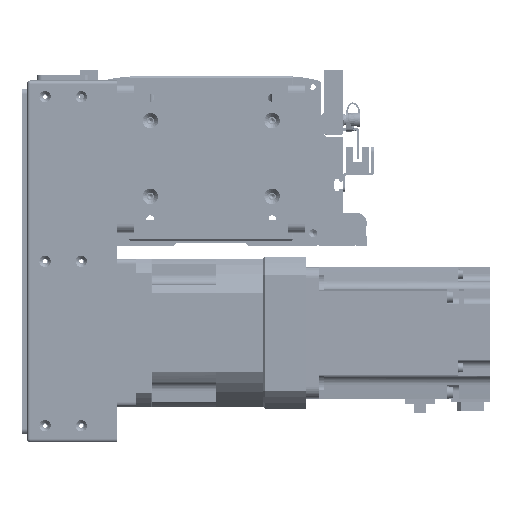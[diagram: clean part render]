
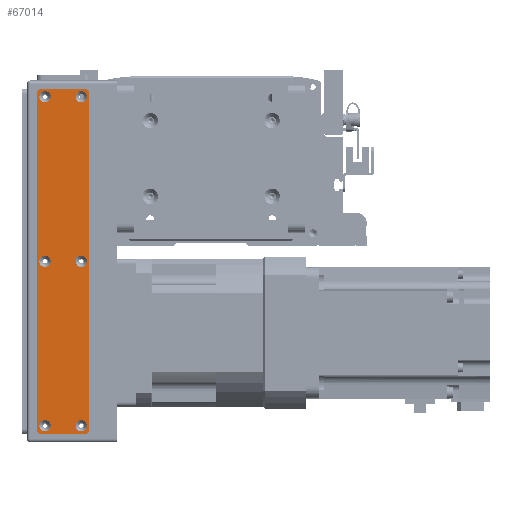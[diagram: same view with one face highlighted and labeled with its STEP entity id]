
A CAD part, front view. The second image highlights one B-rep face of the part: STEP entity #67014.
In plain terms, the highlighted planar face has unit normal (0, -1, 0).
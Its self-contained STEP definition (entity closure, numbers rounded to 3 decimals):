
#2662=FACE_BOUND('',#13954,.T.);
#2663=FACE_BOUND('',#13955,.T.);
#2664=FACE_BOUND('',#13956,.T.);
#2665=FACE_BOUND('',#13957,.T.);
#2666=FACE_BOUND('',#13958,.T.);
#2667=FACE_BOUND('',#13959,.T.);
#4748=PLANE('',#74153);
#9661=FACE_OUTER_BOUND('',#13953,.T.);
#13953=EDGE_LOOP('',(#63142,#63143,#63144,#63145,#63146,#63147,#63148,#63149));
#13954=EDGE_LOOP('',(#63150));
#13955=EDGE_LOOP('',(#63151));
#13956=EDGE_LOOP('',(#63152));
#13957=EDGE_LOOP('',(#63153));
#13958=EDGE_LOOP('',(#63154));
#13959=EDGE_LOOP('',(#63155));
#20160=LINE('',#115417,#26360);
#20161=LINE('',#115421,#26361);
#20162=LINE('',#115425,#26362);
#20163=LINE('',#115428,#26363);
#26360=VECTOR('',#93324,10.);
#26361=VECTOR('',#93327,10.);
#26362=VECTOR('',#93330,10.);
#26363=VECTOR('',#93333,10.);
#28952=CIRCLE('',#74121,3.45);
#28955=CIRCLE('',#74126,3.45);
#28958=CIRCLE('',#74131,3.45);
#28961=CIRCLE('',#74136,3.45);
#28964=CIRCLE('',#74141,3.45);
#28967=CIRCLE('',#74146,3.45);
#28970=CIRCLE('',#74151,3.);
#28972=CIRCLE('',#74154,3.);
#28973=CIRCLE('',#74155,3.);
#28974=CIRCLE('',#74156,3.);
#35123=VERTEX_POINT('',#115347);
#35126=VERTEX_POINT('',#115357);
#35129=VERTEX_POINT('',#115367);
#35132=VERTEX_POINT('',#115377);
#35135=VERTEX_POINT('',#115387);
#35138=VERTEX_POINT('',#115397);
#35141=VERTEX_POINT('',#115407);
#35142=VERTEX_POINT('',#115408);
#35145=VERTEX_POINT('',#115416);
#35146=VERTEX_POINT('',#115418);
#35147=VERTEX_POINT('',#115420);
#35148=VERTEX_POINT('',#115422);
#35149=VERTEX_POINT('',#115424);
#35150=VERTEX_POINT('',#115426);
#44450=EDGE_CURVE('',#35123,#35123,#28952,.T.);
#44455=EDGE_CURVE('',#35126,#35126,#28955,.T.);
#44460=EDGE_CURVE('',#35129,#35129,#28958,.T.);
#44465=EDGE_CURVE('',#35132,#35132,#28961,.T.);
#44470=EDGE_CURVE('',#35135,#35135,#28964,.T.);
#44475=EDGE_CURVE('',#35138,#35138,#28967,.T.);
#44480=EDGE_CURVE('',#35141,#35142,#28970,.T.);
#44484=EDGE_CURVE('',#35141,#35145,#20160,.T.);
#44485=EDGE_CURVE('',#35146,#35145,#28972,.T.);
#44486=EDGE_CURVE('',#35146,#35147,#20161,.T.);
#44487=EDGE_CURVE('',#35148,#35147,#28973,.T.);
#44488=EDGE_CURVE('',#35148,#35149,#20162,.T.);
#44489=EDGE_CURVE('',#35150,#35149,#28974,.T.);
#44490=EDGE_CURVE('',#35150,#35142,#20163,.T.);
#63142=ORIENTED_EDGE('',*,*,#44480,.F.);
#63143=ORIENTED_EDGE('',*,*,#44484,.T.);
#63144=ORIENTED_EDGE('',*,*,#44485,.F.);
#63145=ORIENTED_EDGE('',*,*,#44486,.T.);
#63146=ORIENTED_EDGE('',*,*,#44487,.F.);
#63147=ORIENTED_EDGE('',*,*,#44488,.T.);
#63148=ORIENTED_EDGE('',*,*,#44489,.F.);
#63149=ORIENTED_EDGE('',*,*,#44490,.T.);
#63150=ORIENTED_EDGE('',*,*,#44450,.T.);
#63151=ORIENTED_EDGE('',*,*,#44455,.T.);
#63152=ORIENTED_EDGE('',*,*,#44460,.T.);
#63153=ORIENTED_EDGE('',*,*,#44465,.T.);
#63154=ORIENTED_EDGE('',*,*,#44470,.T.);
#63155=ORIENTED_EDGE('',*,*,#44475,.T.);
#67014=ADVANCED_FACE('',(#9661,#2662,#2663,#2664,#2665,#2666,#2667),#4748,
 .T.);
#74121=AXIS2_PLACEMENT_3D('',#115348,#93244,#93245);
#74126=AXIS2_PLACEMENT_3D('',#115358,#93256,#93257);
#74131=AXIS2_PLACEMENT_3D('',#115368,#93268,#93269);
#74136=AXIS2_PLACEMENT_3D('',#115378,#93280,#93281);
#74141=AXIS2_PLACEMENT_3D('',#115388,#93292,#93293);
#74146=AXIS2_PLACEMENT_3D('',#115398,#93304,#93305);
#74151=AXIS2_PLACEMENT_3D('',#115409,#93316,#93317);
#74153=AXIS2_PLACEMENT_3D('',#115415,#93322,#93323);
#74154=AXIS2_PLACEMENT_3D('',#115419,#93325,#93326);
#74155=AXIS2_PLACEMENT_3D('',#115423,#93328,#93329);
#74156=AXIS2_PLACEMENT_3D('',#115427,#93331,#93332);
#93244=DIRECTION('center_axis',(0.,1.,0.));
#93245=DIRECTION('ref_axis',(1.,0.,0.));
#93256=DIRECTION('center_axis',(0.,1.,0.));
#93257=DIRECTION('ref_axis',(1.,0.,0.));
#93268=DIRECTION('center_axis',(0.,1.,0.));
#93269=DIRECTION('ref_axis',(1.,0.,0.));
#93280=DIRECTION('center_axis',(0.,1.,0.));
#93281=DIRECTION('ref_axis',(1.,0.,0.));
#93292=DIRECTION('center_axis',(0.,1.,0.));
#93293=DIRECTION('ref_axis',(1.,0.,0.));
#93304=DIRECTION('center_axis',(0.,1.,0.));
#93305=DIRECTION('ref_axis',(1.,0.,0.));
#93316=DIRECTION('center_axis',(0.,1.,0.));
#93317=DIRECTION('ref_axis',(-0.707,0.,0.707));
#93322=DIRECTION('center_axis',(0.,-1.,0.));
#93323=DIRECTION('ref_axis',(0.,0.,-1.));
#93324=DIRECTION('',(0.,0.,-1.));
#93325=DIRECTION('center_axis',(0.,1.,0.));
#93326=DIRECTION('ref_axis',(-0.707,0.,-0.707));
#93327=DIRECTION('',(1.,0.,0.));
#93328=DIRECTION('center_axis',(0.,1.,0.));
#93329=DIRECTION('ref_axis',(0.707,0.,-0.707));
#93330=DIRECTION('',(0.,0.,1.));
#93331=DIRECTION('center_axis',(0.,1.,0.));
#93332=DIRECTION('ref_axis',(0.707,0.,0.707));
#93333=DIRECTION('',(-1.,0.,0.));
#115347=CARTESIAN_POINT('',(96.55,-1.5,11.));
#115348=CARTESIAN_POINT('Origin',(100.,-1.5,11.));
#115357=CARTESIAN_POINT('',(-103.45,-1.5,-11.));
#115358=CARTESIAN_POINT('Origin',(-100.,-1.5,-11.));
#115367=CARTESIAN_POINT('',(-3.45,-1.5,11.));
#115368=CARTESIAN_POINT('Origin',(0.,-1.5,11.));
#115377=CARTESIAN_POINT('',(-3.45,-1.5,-11.));
#115378=CARTESIAN_POINT('Origin',(0.,-1.5,-11.));
#115387=CARTESIAN_POINT('',(-103.45,-1.5,11.));
#115388=CARTESIAN_POINT('Origin',(-100.,-1.5,11.));
#115397=CARTESIAN_POINT('',(96.55,-1.5,-11.));
#115398=CARTESIAN_POINT('Origin',(100.,-1.5,-11.));
#115407=CARTESIAN_POINT('',(-105.,-1.5,13.));
#115408=CARTESIAN_POINT('',(-102.,-1.5,16.));
#115409=CARTESIAN_POINT('Origin',(-102.,-1.5,13.));
#115415=CARTESIAN_POINT('Origin',(0.,-1.5,0.));
#115416=CARTESIAN_POINT('',(-105.,-1.5,-13.));
#115417=CARTESIAN_POINT('',(-105.,-1.5,16.));
#115418=CARTESIAN_POINT('',(-102.,-1.5,-16.));
#115419=CARTESIAN_POINT('Origin',(-102.,-1.5,-13.));
#115420=CARTESIAN_POINT('',(102.,-1.5,-16.));
#115421=CARTESIAN_POINT('',(-105.,-1.5,-16.));
#115422=CARTESIAN_POINT('',(105.,-1.5,-13.));
#115423=CARTESIAN_POINT('Origin',(102.,-1.5,-13.));
#115424=CARTESIAN_POINT('',(105.,-1.5,13.));
#115425=CARTESIAN_POINT('',(105.,-1.5,-16.));
#115426=CARTESIAN_POINT('',(102.,-1.5,16.));
#115427=CARTESIAN_POINT('Origin',(102.,-1.5,13.));
#115428=CARTESIAN_POINT('',(105.,-1.5,16.));
